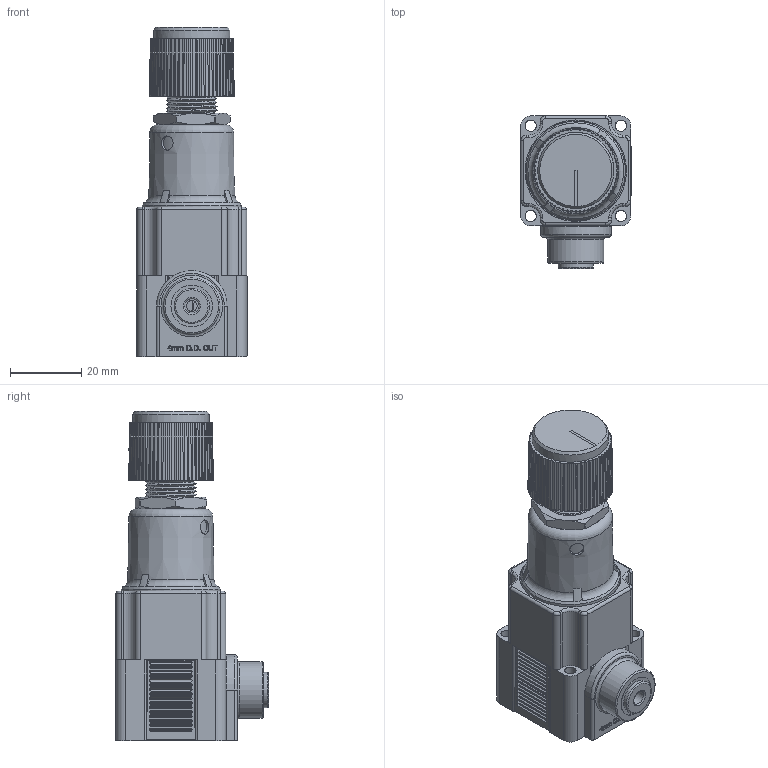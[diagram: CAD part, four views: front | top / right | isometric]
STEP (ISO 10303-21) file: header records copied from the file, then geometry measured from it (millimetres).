
FILE_DESCRIPTION(/* description */ (''),/* implementation_level */ '2;1');
FILE_NAME(/* name */ 'K:\Normteile INVENTOR\Air-Logic\Regulators\NR4000\NR 4___ 7 Push-In Fittings for 4 mm O.D. Tube Out.igs.ipt.stp',/* time_stamp */ '2020-05-27T10:51:12+02:00',/* author */ ('Paul'),/* organization */ (''),/* preprocessor_version */ 'ST-DEVELOPER v18',/* originating_system */ 'Autodesk Inventor 2020',/* authorisation */ '');
FILE_SCHEMA (('AUTOMOTIVE_DESIGN { 1 0 10303 214 3 1 1 }'));
Length unit declared in the file: inch
Products named in the file (1): NR 4___ 7 Push-In Fittings for 4 mm O.D. Tube Out.igs
Bounding box: 31.06 x 43.08 x 92.65 mm (x, y, z)
Volume: 57555.3 mm3; surface area: 19186.2 mm2
Topology: 1 solids, 1 shells, 1052 faces, 2718 edges, 1744 vertices
Faces by surface type: plane 520, cylinder 333, bspline 91, cone 82, torus 26
Full cylindrical faces by diameter (mm): 3.073 x1, 3.175 x4, 3.988 x1, 4.039 x1, 4.064 x1, 4.089 x1, 6.045 x1, 9.169 x1, 9.398 x1, 9.906 x1, 11.735 x1, 12.903 x1, 14.288 x2, 15.85 x1, 19.406 x1, 21.476 x1, 26.264 x1, 27.94 x1, 28.575 x1
Entity records: 41343 total; most frequent: CARTESIAN_POINT 14448, ORIENTED_EDGE 5436, DIRECTION 5382, EDGE_CURVE 2718, AXIS2_PLACEMENT_3D 2003, VERTEX_POINT 1744, LINE 1376, VECTOR 1376
